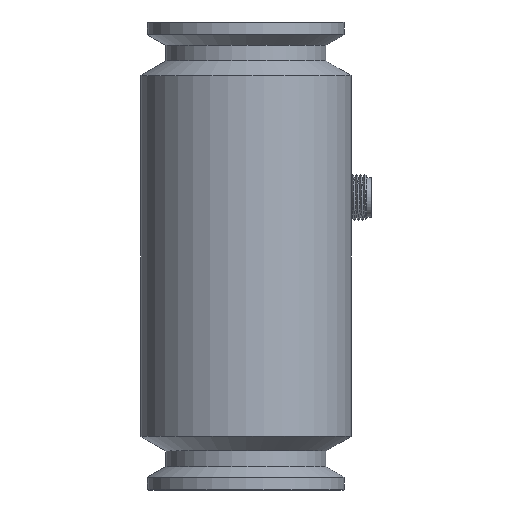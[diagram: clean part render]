
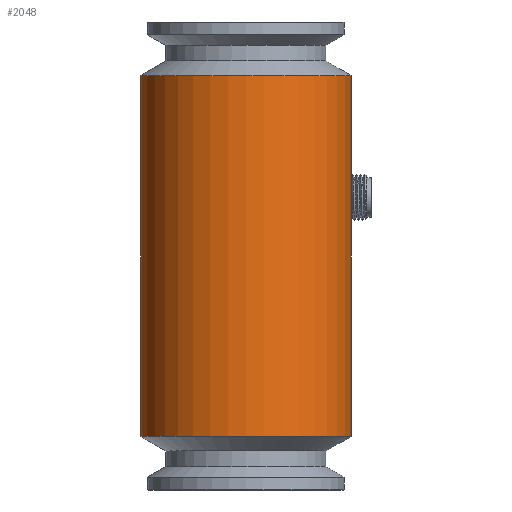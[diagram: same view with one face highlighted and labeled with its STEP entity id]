
A CAD part, front view. The second image highlights one B-rep face of the part: STEP entity #2048.
In plain terms, the highlighted cylindrical face has radius 27 mm (diameter 54 mm), a full revolution.
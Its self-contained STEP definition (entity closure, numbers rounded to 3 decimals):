
#1868=CYLINDRICAL_SURFACE('',#9252,27.);
#2048=ADVANCED_FACE('',(#2715,#2716,#2717),#1868,.T.);
#2715=FACE_BOUND('',#2946,.T.);
#2716=FACE_BOUND('',#2947,.T.);
#2717=FACE_BOUND('',#2948,.T.);
#2946=EDGE_LOOP('',(#3579));
#2947=EDGE_LOOP('',(#3580));
#2948=EDGE_LOOP('',(#3581,#3582,#3583,#3584,#3585,#3586));
#3579=ORIENTED_EDGE('',*,*,#6443,.T.);
#3580=ORIENTED_EDGE('',*,*,#6444,.T.);
#3581=ORIENTED_EDGE('',*,*,#6441,.T.);
#3582=ORIENTED_EDGE('',*,*,#6445,.T.);
#3583=ORIENTED_EDGE('',*,*,#6446,.T.);
#3584=ORIENTED_EDGE('',*,*,#6439,.T.);
#3585=ORIENTED_EDGE('',*,*,#6447,.T.);
#3586=ORIENTED_EDGE('',*,*,#6448,.T.);
#5729=VERTEX_POINT('',#12509);
#5730=VERTEX_POINT('',#12510);
#5731=VERTEX_POINT('',#12512);
#5732=VERTEX_POINT('',#12514);
#5733=VERTEX_POINT('',#12518);
#5734=VERTEX_POINT('',#12520);
#5735=VERTEX_POINT('',#12527);
#5736=VERTEX_POINT('',#12540);
#6439=EDGE_CURVE('',#5729,#5730,#8400,.T.);
#6441=EDGE_CURVE('',#5732,#5731,#8401,.T.);
#6443=EDGE_CURVE('',#5733,#5733,#7518,.T.);
#6444=EDGE_CURVE('',#5734,#5734,#7519,.T.);
#6445=EDGE_CURVE('',#5731,#5735,#7972,.T.);
#6446=EDGE_CURVE('',#5735,#5729,#7973,.T.);
#6447=EDGE_CURVE('',#5730,#5736,#7974,.T.);
#6448=EDGE_CURVE('',#5736,#5732,#7975,.T.);
#7518=CIRCLE('',#9250,27.);
#7519=CIRCLE('',#9251,27.);
#7972=B_SPLINE_CURVE_WITH_KNOTS('',3,(#12521,#12522,#12523,#12524,#12525,
#12526),.UNSPECIFIED.,.F.,.F.,(4,2,4),(0.,0.5,1.),.UNSPECIFIED.);
#7973=B_SPLINE_CURVE_WITH_KNOTS('',3,(#12528,#12529,#12530,#12531,#12532,
#12533),.UNSPECIFIED.,.F.,.F.,(4,2,4),(0.,0.5,1.),.UNSPECIFIED.);
#7974=B_SPLINE_CURVE_WITH_KNOTS('',3,(#12534,#12535,#12536,#12537,#12538,
#12539),.UNSPECIFIED.,.F.,.F.,(4,2,4),(0.,0.5,1.),.UNSPECIFIED.);
#7975=B_SPLINE_CURVE_WITH_KNOTS('',3,(#12541,#12542,#12543,#12544,#12545,
#12546),.UNSPECIFIED.,.F.,.F.,(4,2,4),(0.,0.5,1.),.UNSPECIFIED.);
#8400=LINE('',#12508,#8810);
#8401=LINE('',#12513,#8811);
#8810=VECTOR('',#10215,1.);
#8811=VECTOR('',#10218,1.);
#9250=AXIS2_PLACEMENT_3D('',#12517,#10223,#10224);
#9251=AXIS2_PLACEMENT_3D('',#12519,#10225,#10226);
#9252=AXIS2_PLACEMENT_3D('',#12547,#10227,#10228);
#10215=DIRECTION('',(0.,0.,1.));
#10218=DIRECTION('',(0.,0.,-1.));
#10223=DIRECTION('',(0.,0.,1.));
#10224=DIRECTION('',(-1.,0.,0.));
#10225=DIRECTION('',(0.,0.,-1.));
#10226=DIRECTION('',(1.,0.,0.));
#10227=DIRECTION('',(0.,0.,-1.));
#10228=DIRECTION('',(1.,0.,0.));
#12508=CARTESIAN_POINT('',(10.198,25.,74.));
#12509=CARTESIAN_POINT('',(10.198,25.,-40.206));
#12510=CARTESIAN_POINT('',(10.198,25.,-25.794));
#12512=CARTESIAN_POINT('',(-10.198,25.,-40.25));
#12513=CARTESIAN_POINT('',(-10.198,25.,74.));
#12514=CARTESIAN_POINT('',(-10.198,25.,-25.75));
#12517=CARTESIAN_POINT('',(0.,0.,-94.247));
#12518=CARTESIAN_POINT('',(-27.,0.,-94.247));
#12519=CARTESIAN_POINT('',(0.,0.,-1.753));
#12520=CARTESIAN_POINT('',(27.,0.,-1.753));
#12521=CARTESIAN_POINT('',(-10.198,25.,-40.25));
#12522=CARTESIAN_POINT('',(-9.251,25.386,-42.247));
#12523=CARTESIAN_POINT('',(-7.907,25.878,-44.013));
#12524=CARTESIAN_POINT('',(-4.432,26.693,-46.658));
#12525=CARTESIAN_POINT('',(-2.255,27.,-47.502));
#12526=CARTESIAN_POINT('',(0.,27.,-47.5));
#12527=CARTESIAN_POINT('',(0.,27.,-47.5));
#12528=CARTESIAN_POINT('',(0.,27.,-47.5));
#12529=CARTESIAN_POINT('',(2.257,27.,-47.498));
#12530=CARTESIAN_POINT('',(4.418,26.697,-46.659));
#12531=CARTESIAN_POINT('',(7.918,25.875,-43.984));
#12532=CARTESIAN_POINT('',(9.255,25.385,-42.209));
#12533=CARTESIAN_POINT('',(10.198,25.,-40.206));
#12534=CARTESIAN_POINT('',(10.198,25.,-25.794));
#12535=CARTESIAN_POINT('',(9.255,25.385,-23.79));
#12536=CARTESIAN_POINT('',(7.914,25.876,-22.015));
#12537=CARTESIAN_POINT('',(4.439,26.692,-19.355));
#12538=CARTESIAN_POINT('',(2.26,27.,-18.502));
#12539=CARTESIAN_POINT('',(0.,27.,-18.5));
#12540=CARTESIAN_POINT('',(0.,27.,-18.5));
#12541=CARTESIAN_POINT('',(0.,27.,-18.5));
#12542=CARTESIAN_POINT('',(-2.253,27.,-18.498));
#12543=CARTESIAN_POINT('',(-4.411,26.698,-19.328));
#12544=CARTESIAN_POINT('',(-7.912,25.877,-21.988));
#12545=CARTESIAN_POINT('',(-9.251,25.386,-23.754));
#12546=CARTESIAN_POINT('',(-10.198,25.,-25.75));
#12547=CARTESIAN_POINT('',(0.,0.,74.));
